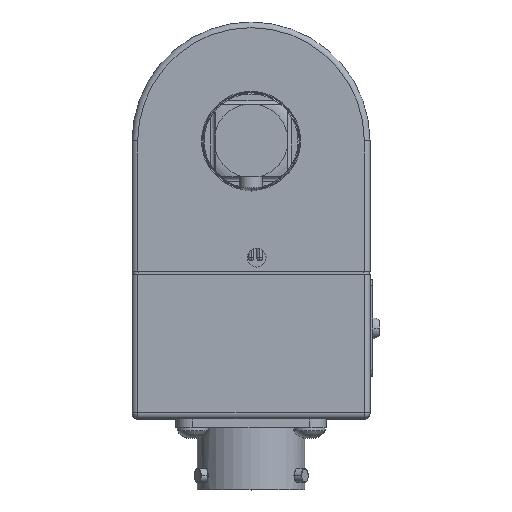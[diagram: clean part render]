
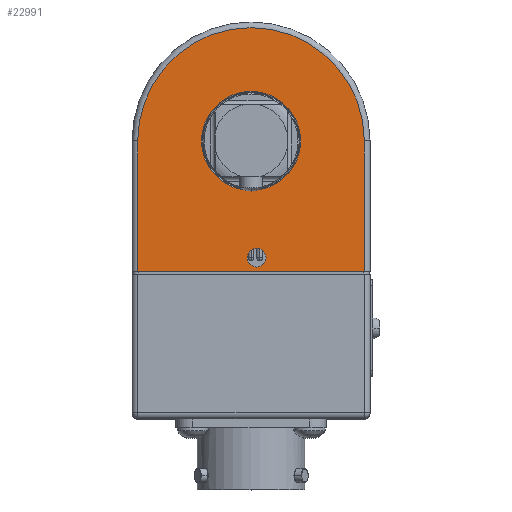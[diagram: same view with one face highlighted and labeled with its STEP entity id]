
A CAD part, top view. The second image highlights one B-rep face of the part: STEP entity #22991.
In plain terms, the highlighted planar face has unit normal (0, 0, 1).
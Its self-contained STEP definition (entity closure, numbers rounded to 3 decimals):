
#22412=CARTESIAN_POINT('',(0.,23.,29.));
#22413=DIRECTION('',(0.,0.,1.));
#22414=DIRECTION('',(1.,0.,0.));
#22415=AXIS2_PLACEMENT_3D('',#22412,#22413,#22414);
#22420=DIRECTION('',(1.,0.,0.));
#22421=VECTOR('',#22420,40.);
#22422=CARTESIAN_POINT('',(-20.,0.,29.));
#22423=LINE('',#22422,#22421);
#22427=CARTESIAN_POINT('',(0.,23.,29.));
#22428=DIRECTION('',(0.,0.,1.));
#22429=DIRECTION('',(0.,1.,0.));
#22430=AXIS2_PLACEMENT_3D('',#22427,#22428,#22429);
#22435=CARTESIAN_POINT('',(1.,2.4,29.));
#22436=DIRECTION('',(0.,0.,-1.));
#22437=DIRECTION('',(0.,-1.,0.));
#22438=AXIS2_PLACEMENT_3D('',#22435,#22436,#22437);
#22443=CARTESIAN_POINT('',(1.,2.4,29.));
#22444=DIRECTION('',(0.,0.,-1.));
#22445=DIRECTION('',(0.,1.,0.));
#22446=AXIS2_PLACEMENT_3D('',#22443,#22444,#22445);
#22451=CARTESIAN_POINT('',(0.,23.,29.));
#22452=DIRECTION('',(0.,0.,-1.));
#22453=DIRECTION('',(0.,1.,0.));
#22454=AXIS2_PLACEMENT_3D('',#22451,#22452,#22453);
#22459=CARTESIAN_POINT('',(0.,23.,29.));
#22460=DIRECTION('',(0.,0.,-1.));
#22461=DIRECTION('',(0.,-1.,0.));
#22462=AXIS2_PLACEMENT_3D('',#22459,#22460,#22461);
#22499=DIRECTION('',(0.,1.,0.));
#22500=VECTOR('',#22499,23.);
#22501=CARTESIAN_POINT('',(20.,0.,29.));
#22502=LINE('',#22501,#22500);
#22641=DIRECTION('',(0.,-1.,0.));
#22642=VECTOR('',#22641,23.);
#22643=CARTESIAN_POINT('',(-20.,23.,29.));
#22644=LINE('',#22643,#22642);
#22779=CARTESIAN_POINT('',(1.,4.05,29.));
#22780=VERTEX_POINT('',#22779);
#22781=CARTESIAN_POINT('',(1.,0.75,29.));
#22782=VERTEX_POINT('',#22781);
#22799=CARTESIAN_POINT('',(-20.,0.,29.));
#22800=CARTESIAN_POINT('',(20.,0.,29.));
#22801=VERTEX_POINT('',#22799);
#22802=VERTEX_POINT('',#22800);
#22811=CARTESIAN_POINT('',(20.,23.,29.));
#22812=CARTESIAN_POINT('',(0.,43.,29.));
#22813=VERTEX_POINT('',#22811);
#22814=VERTEX_POINT('',#22812);
#22815=CARTESIAN_POINT('',(-20.,23.,29.));
#22816=VERTEX_POINT('',#22815);
#22817=CARTESIAN_POINT('',(0.,31.75,29.));
#22818=CARTESIAN_POINT('',(0.,14.25,29.));
#22819=VERTEX_POINT('',#22817);
#22820=VERTEX_POINT('',#22818);
#22963=CARTESIAN_POINT('',(0.,21.5,29.));
#22964=DIRECTION('',(0.,0.,1.));
#22965=DIRECTION('',(-1.,0.,0.));
#22966=AXIS2_PLACEMENT_3D('',#22963,#22964,#22965);
#22967=PLANE('',#22966);
#22969=ORIENTED_EDGE('',*,*,#22968,.F.);
#22971=ORIENTED_EDGE('',*,*,#22970,.F.);
#22972=ORIENTED_EDGE('',*,*,#22869,.F.);
#22974=ORIENTED_EDGE('',*,*,#22973,.F.);
#22976=ORIENTED_EDGE('',*,*,#22975,.F.);
#22977=EDGE_LOOP('',(#22969,#22971,#22972,#22974,#22976));
#22978=FACE_OUTER_BOUND('',#22977,.F.);
#22980=ORIENTED_EDGE('',*,*,#22979,.F.);
#22982=ORIENTED_EDGE('',*,*,#22981,.F.);
#22983=EDGE_LOOP('',(#22980,#22982));
#22984=FACE_BOUND('',#22983,.F.);
#22986=ORIENTED_EDGE('',*,*,#22985,.F.);
#22988=ORIENTED_EDGE('',*,*,#22987,.F.);
#22989=EDGE_LOOP('',(#22986,#22988));
#22990=FACE_BOUND('',#22989,.F.);
#22991=ADVANCED_FACE('',(#22978,#22984,#22990),#22967,.T.);
#22416=CIRCLE('',#22415,20.);
#22431=CIRCLE('',#22430,20.);
#22439=CIRCLE('',#22438,1.65);
#22447=CIRCLE('',#22446,1.65);
#22455=CIRCLE('',#22454,8.75);
#22463=CIRCLE('',#22462,8.75);
#22869=EDGE_CURVE('',#22801,#22802,#22423,.T.);
#22968=EDGE_CURVE('',#22813,#22814,#22416,.T.);
#22970=EDGE_CURVE('',#22802,#22813,#22502,.T.);
#22973=EDGE_CURVE('',#22816,#22801,#22644,.T.);
#22975=EDGE_CURVE('',#22814,#22816,#22431,.T.);
#22979=EDGE_CURVE('',#22782,#22780,#22439,.T.);
#22981=EDGE_CURVE('',#22780,#22782,#22447,.T.);
#22985=EDGE_CURVE('',#22819,#22820,#22455,.T.);
#22987=EDGE_CURVE('',#22820,#22819,#22463,.T.);
